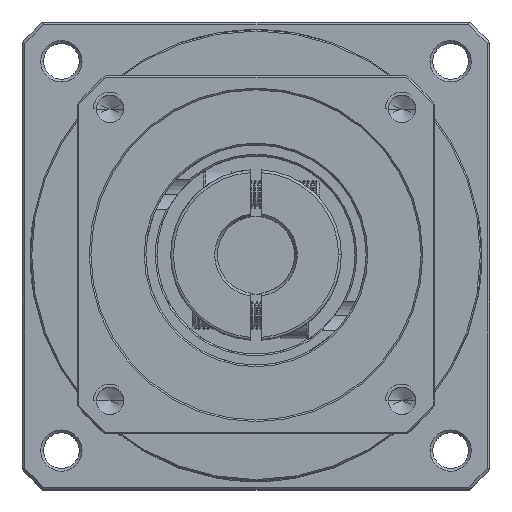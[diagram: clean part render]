
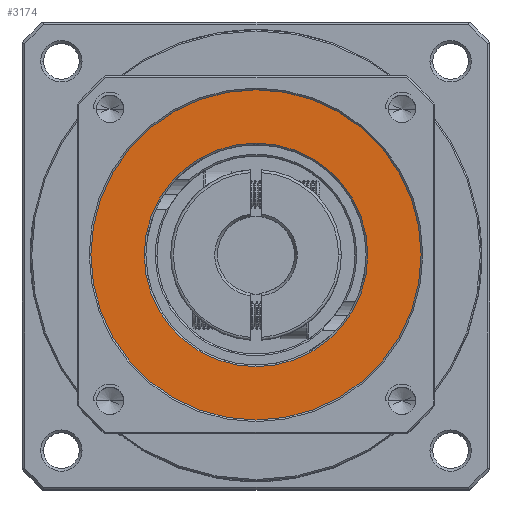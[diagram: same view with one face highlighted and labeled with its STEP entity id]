
A CAD part, top view. The second image highlights one B-rep face of the part: STEP entity #3174.
In plain terms, the highlighted planar face has unit normal (0, 0, 1).
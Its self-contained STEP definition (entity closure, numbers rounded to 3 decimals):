
#1593 = VERTEX_POINT ( 'NONE', #129568 ) ;
#3012 = DIRECTION ( 'NONE',  ( 1., 0., 0. ) ) ;
#3030 = ORIENTED_EDGE ( 'NONE', *, *, #116641, .T. ) ;
#3174 = ADVANCED_FACE ( 'NONE', ( #60259, #101659 ), #41903, .T. ) ;
#4291 = EDGE_CURVE ( 'NONE', #1593, #60022, #64616, .T. ) ;
#10392 = CARTESIAN_POINT ( 'NONE',  ( -30.185, 43.615, -29.508 ) ) ;
#10790 = ORIENTED_EDGE ( 'NONE', *, *, #31012, .T. ) ;
#18039 = DIRECTION ( 'NONE',  ( 0., 0., 1. ) ) ;
#28310 = DIRECTION ( 'NONE',  ( 1., 0., 0. ) ) ;
#31012 = EDGE_CURVE ( 'NONE', #103802, #70494, #125155, .T. ) ;
#31139 = DIRECTION ( 'NONE',  ( 0., 0., 1. ) ) ;
#38019 = ORIENTED_EDGE ( 'NONE', *, *, #105899, .T. ) ;
#38457 = DIRECTION ( 'NONE',  ( 0., 0., -1. ) ) ;
#41903 = PLANE ( 'NONE',  #72870 ) ;
#44863 = AXIS2_PLACEMENT_3D ( 'NONE', #58527, #38457, #48789 ) ;
#48789 = DIRECTION ( 'NONE',  ( 1., 0., 0. ) ) ;
#52049 = CARTESIAN_POINT ( 'NONE',  ( -70.785, 43.615, -29.508 ) ) ;
#52551 = AXIS2_PLACEMENT_3D ( 'NONE', #79202, #18039, #28310 ) ;
#58527 = CARTESIAN_POINT ( 'NONE',  ( -50.485, 43.615, -29.508 ) ) ;
#60022 = VERTEX_POINT ( 'NONE', #85185 ) ;
#60084 = EDGE_LOOP ( 'NONE', ( #38019, #10790 ) ) ;
#60259 = FACE_BOUND ( 'NONE', #60084, .T. ) ;
#62801 = ORIENTED_EDGE ( 'NONE', *, *, #4291, .T. ) ;
#62816 = CARTESIAN_POINT ( 'NONE',  ( -50.485, 43.615, -29.508 ) ) ;
#64616 = CIRCLE ( 'NONE', #52551, 30. ) ;
#70025 = AXIS2_PLACEMENT_3D ( 'NONE', #100070, #111238, #91134 ) ;
#70494 = VERTEX_POINT ( 'NONE', #10392 ) ;
#72870 = AXIS2_PLACEMENT_3D ( 'NONE', #73084, #74816, #3012 ) ;
#73084 = CARTESIAN_POINT ( 'NONE',  ( -50.485, 43.615, -29.508 ) ) ;
#74816 = DIRECTION ( 'NONE',  ( 0., 0., 1. ) ) ;
#79202 = CARTESIAN_POINT ( 'NONE',  ( -50.485, 43.615, -29.508 ) ) ;
#85185 = CARTESIAN_POINT ( 'NONE',  ( -80.485, 43.615, -29.508 ) ) ;
#91134 = DIRECTION ( 'NONE',  ( 1., 0., 0. ) ) ;
#93435 = CIRCLE ( 'NONE', #111666, 30. ) ;
#100070 = CARTESIAN_POINT ( 'NONE',  ( -50.485, 43.615, -29.508 ) ) ;
#101659 = FACE_OUTER_BOUND ( 'NONE', #124669, .T. ) ;
#103802 = VERTEX_POINT ( 'NONE', #52049 ) ;
#105211 = CIRCLE ( 'NONE', #44863, 20.3 ) ;
#105899 = EDGE_CURVE ( 'NONE', #70494, #103802, #105211, .T. ) ;
#111238 = DIRECTION ( 'NONE',  ( 0., 0., -1. ) ) ;
#111666 = AXIS2_PLACEMENT_3D ( 'NONE', #62816, #31139, #124335 ) ;
#116641 = EDGE_CURVE ( 'NONE', #60022, #1593, #93435, .T. ) ;
#124335 = DIRECTION ( 'NONE',  ( 1., 0., 0. ) ) ;
#124669 = EDGE_LOOP ( 'NONE', ( #62801, #3030 ) ) ;
#125155 = CIRCLE ( 'NONE', #70025, 20.3 ) ;
#129568 = CARTESIAN_POINT ( 'NONE',  ( -20.485, 43.615, -29.508 ) ) ;
